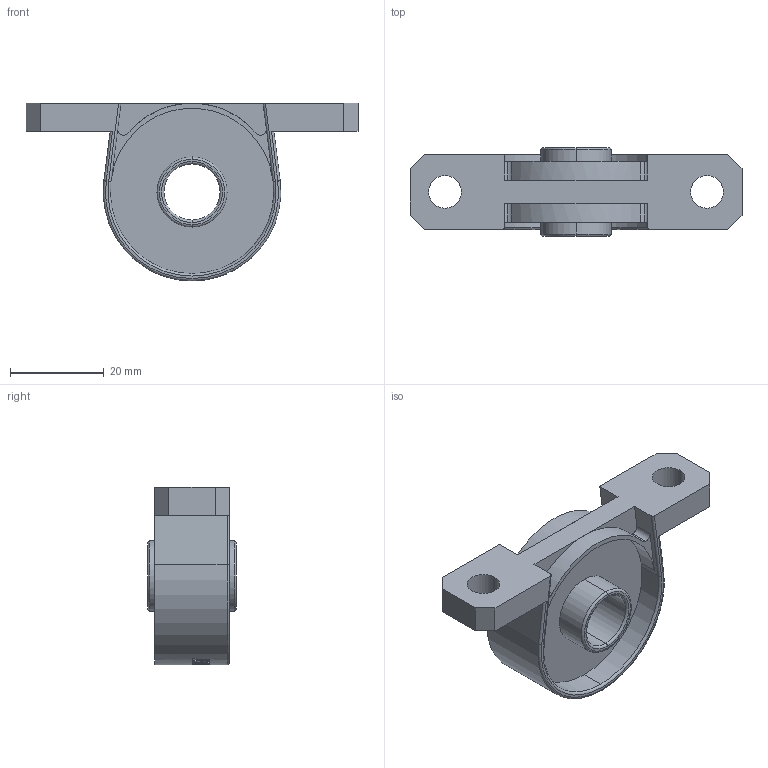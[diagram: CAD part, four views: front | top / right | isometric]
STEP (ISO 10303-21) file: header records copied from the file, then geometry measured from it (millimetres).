
FILE_DESCRIPTION (( 'STEP AP203' ), '1' );
FILE_NAME ('12mm.STEP', '2017-08-14T12:58:52', ( '' ), ( '' ), 'SwSTEP 2.0', 'SolidWorks 2014', '' );
FILE_SCHEMA (( 'CONFIG_CONTROL_DESIGN' ));
Length unit declared in the file: millimetre
Products named in the file (1): 12mm
Bounding box: 71 x 19 x 38 mm (x, y, z)
Volume: 11510.6 mm3; surface area: 8569.2 mm2
Topology: 1 solids, 1 shells, 153 faces, 412 edges, 270 vertices
Faces by surface type: plane 72, cylinder 39, bspline 32, torus 10
Entity records: 10028 total; most frequent: CARTESIAN_POINT 6321, ORIENTED_EDGE 824, DIRECTION 655, EDGE_CURVE 412, VERTEX_POINT 270, AXIS2_PLACEMENT_3D 240, LINE 175, VECTOR 175
